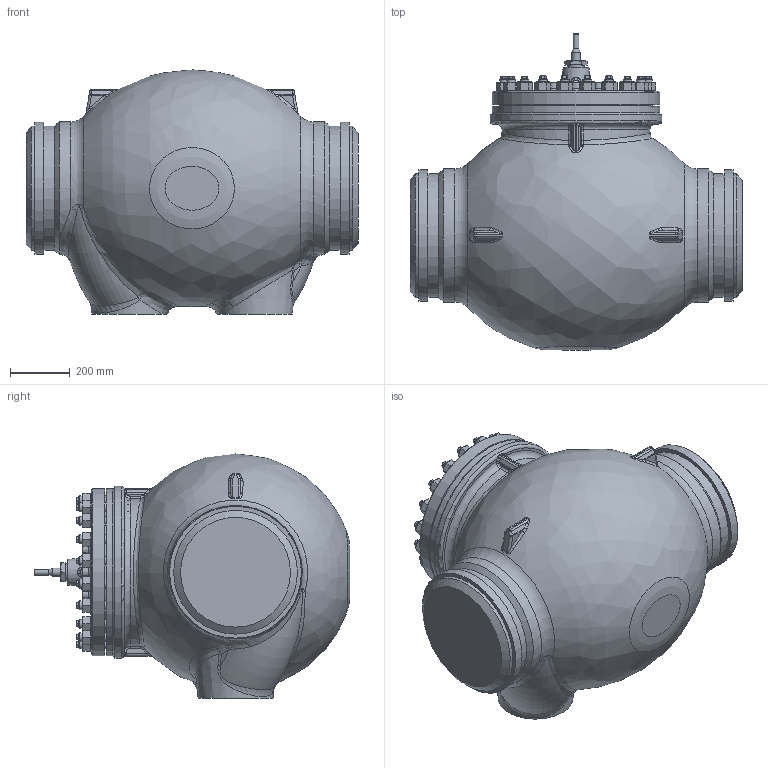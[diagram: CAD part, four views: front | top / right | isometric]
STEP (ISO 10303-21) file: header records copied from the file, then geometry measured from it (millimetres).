
FILE_DESCRIPTION(/* description */ (''),/* implementation_level */ '2;1');
FILE_NAME(/* name */ 'RV3xx_DN400_SP_privarovaci.stp',/* time_stamp */ '2014-09-25T06:18:25+02:00',/* author */ (''),/* organization */ ('LDM'),/* preprocessor_version */ 'ST-DEVELOPER v11',/* originating_system */ 'SIEMENS PLM Software NX 7.0',/* authorisation */ '');
FILE_SCHEMA (('CONFIG_CONTROL_DESIGN'));
Length unit declared in the file: millimetre
Products named in the file (1): adam1C36fvjg
Bounding box: 1108 x 1054.5 x 815 mm (x, y, z)
Volume: 379780452.3 mm3; surface area: 3688717 mm2
Topology: 1 solids, 21 shells, 1485 faces, 3525 edges, 2152 vertices
Faces by surface type: cone 514, plane 507, cylinder 210, bspline 110, torus 73, extrusion 51, sphere 20
Full cylindrical faces by diameter (mm): 14.376 x2, 17.97 x4, 20 x1, 23.5 x20, 26.158 x20, 28 x1, 29.522 x40, 33 x20, 39 x1, 46 x40, 56 x1, 413 x4, 426 x1, 440 x2, 558 x2, 574 x1
Entity records: 44856 total; most frequent: CARTESIAN_POINT 15956, ORIENTED_EDGE 5796, DIRECTION 5361, EDGE_CURVE 2898, AXIS2_PLACEMENT_3D 2351, EDGE_LOOP 1960, VERTEX_POINT 1916, ADVANCED_FACE 1485
